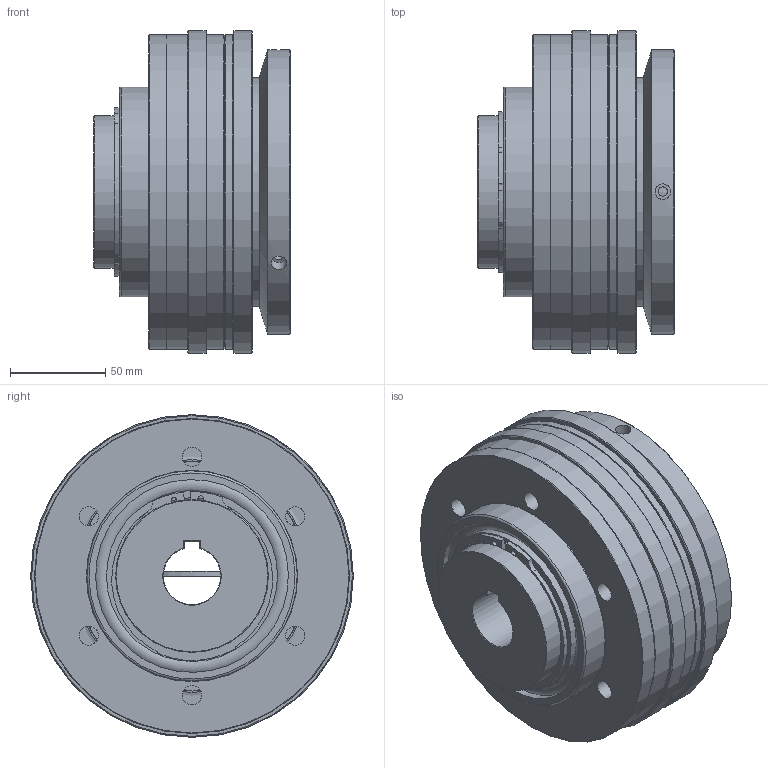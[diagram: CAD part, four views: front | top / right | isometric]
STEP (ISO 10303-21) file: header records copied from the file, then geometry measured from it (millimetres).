
FILE_DESCRIPTION( ( 'Unknown' ), '1' );
FILE_NAME( 'C:/Dokumente und Einstellungen/Sven/Desktop/hp kbk/KBK LL-P-800.stp', 'Unknown', ( 'Unknown' ), ( 'Unknown' ), 'XStep 1.0', 'Unknown', ' ' );
FILE_SCHEMA( ( 'automotive_design' ) );
Length unit declared in the file: millimetre
Products named in the file (10): Assem1; Assem2; ball_bearing_-_61916_0_01_1; ball_bearing_-_61916_0_02_1; ball_bearing_-_61916_0_03_1; Stellring 800_1; Druckring 800_1; a_80_1; KBK LL-P-800 Grundkörper_1; Flansch 800_1
Bounding box: 103 x 169 x 169 mm (x, y, z)
Volume: 2745015 mm3; surface area: 524457.7 mm2
Topology: 23 solids, 23 shells, 296 faces, 606 edges, 384 vertices
Faces by surface type: cylinder 122, plane 102, cone 40, torus 32
Full cylindrical faces by diameter (mm): 3 x6, 4.917 x6, 6.2 x6, 8.1 x6, 10.106 x12, 76.5 x4, 80 x10, 89.6 x8, 100 x2, 101 x8, 110 x6, 120 x4, 135 x2, 148 x2, 149 x2, 165 x4, 169 x2
Entity records: 3389 total; most frequent: CARTESIAN_POINT 811, DIRECTION 550, ORIENTED_EDGE 328, AXIS2_PLACEMENT_3D 257, EDGE_LOOP 228, FACE_OUTER_BOUND 168, EDGE_CURVE 164, VERTEX_POINT 140
